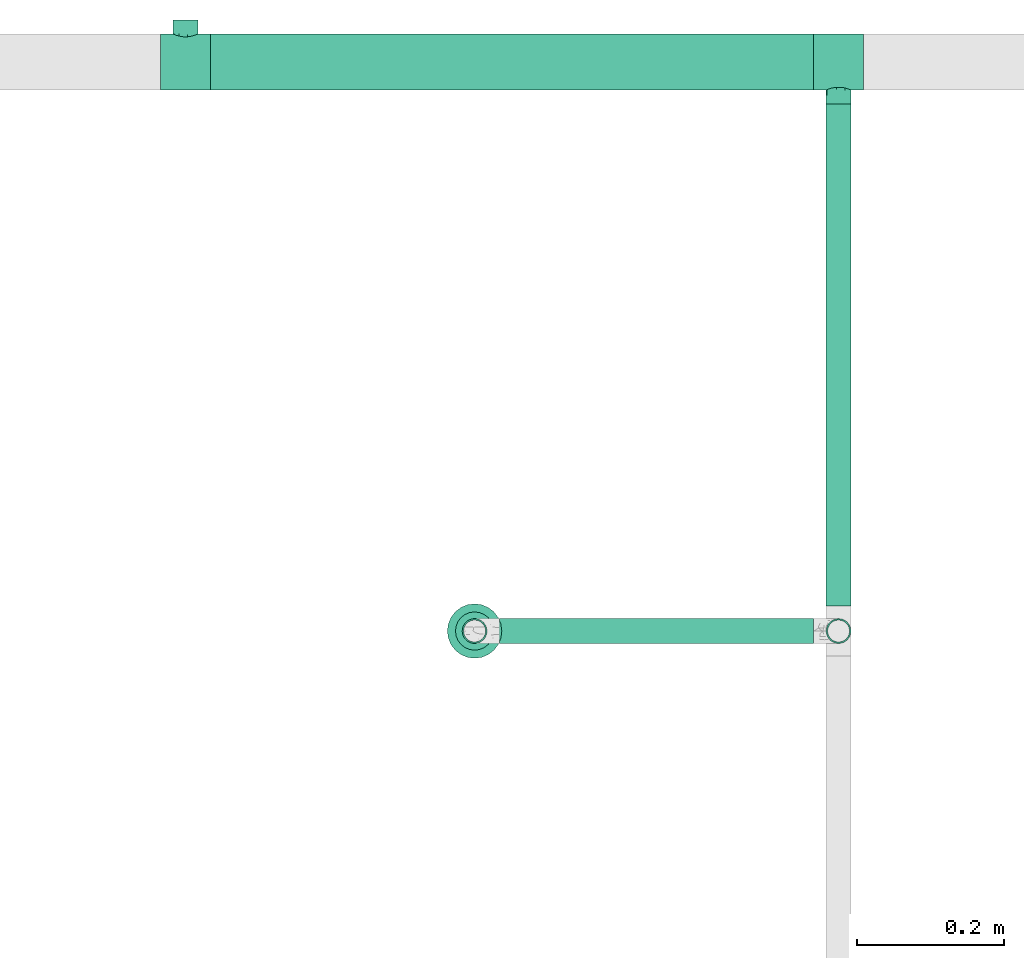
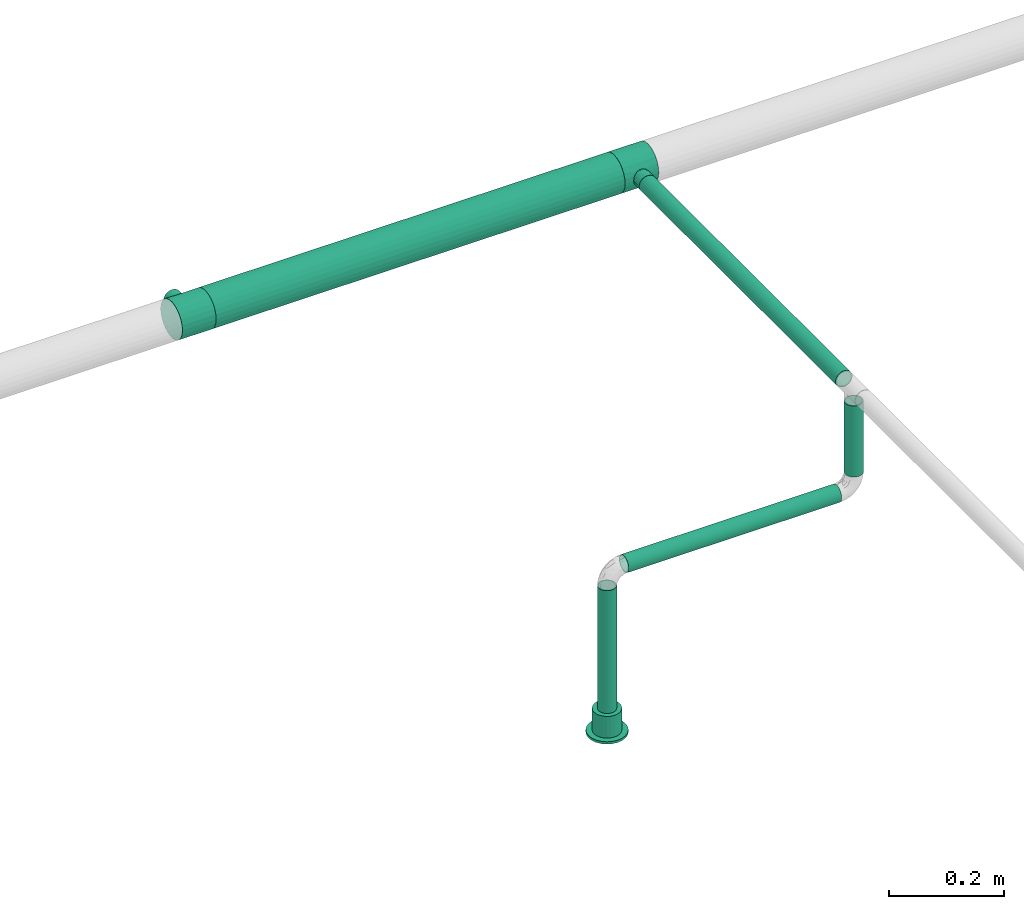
# One storey, part 32 of 95: 5 flow segments, 2 flow fittings, 1 flow terminal.
"""IFC2X3 building model written with IfcOpenShell, lengths in millimetres."""

from ifc_helpers import new_model, entity, si_unit, converted_unit, derived_unit, direction, frame, origin_with_axes, origin_2d_with_axis, place, context, subcontext, project, spatial, hollow_circle, extrude, open_shell, surface_model, source, transform, mapped, type_object, element, save


model = new_model("IFC2X3")

# Units and contexts
model_context = context("Model", 3, precision=0.01, world=frame((0.0, 4.29681676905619e-09, 0.0)), true_north=direction((4.01073788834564e-13, 1.0)))
plan_context = context("Plan", 3, precision=0.01, world=frame((0.0, 4.29681676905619e-09, 0.0)), true_north=direction((4.01073788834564e-13, 1.0)))
body_context = subcontext(model_context, "Body", "Model", "MODEL_VIEW")
ifc_project = project(units=[converted_unit("PLANEANGLEUNIT", "DEGREE", entity("IfcPositiveLengthMeasure", 0.0174532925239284), si_unit("PLANEANGLEUNIT", "RADIAN"), dimensions=[0, 0, 0, 0, 0, 0, 0]), si_unit("AREAUNIT", "SQUARE_METRE"), si_unit("LENGTHUNIT", "METRE", prefix="MILLI"), si_unit("MASSUNIT", "GRAM", prefix="KILO"), si_unit("POWERUNIT", "WATT"), si_unit("PRESSUREUNIT", "PASCAL"), si_unit("FORCEUNIT", "NEWTON", prefix="KILO"), si_unit("ELECTRICVOLTAGEUNIT", "VOLT"), si_unit("ELECTRICCURRENTUNIT", "AMPERE"), si_unit("THERMODYNAMICTEMPERATUREUNIT", "DEGREE_CELSIUS"), si_unit("TIMEUNIT", "SECOND"), si_unit("VOLUMEUNIT", "CUBIC_METRE"), derived_unit("LINEARVELOCITYUNIT", [(si_unit("LENGTHUNIT", "METRE"), 1), (si_unit("TIMEUNIT", "SECOND"), -1)]), derived_unit("VOLUMETRICFLOWRATEUNIT", [(si_unit("VOLUMEUNIT", "CUBIC_METRE"), 1), (si_unit("TIMEUNIT", "SECOND"), -1)]), derived_unit("THERMALTRANSMITTANCEUNIT", [(si_unit("POWERUNIT", "WATT"), 1), (si_unit("THERMODYNAMICTEMPERATUREUNIT", "KELVIN"), -1), (si_unit("AREAUNIT", "SQUARE_METRE"), -1)]), derived_unit("SOUNDPRESSUREUNIT", [(si_unit("PRESSUREUNIT", "PASCAL"), 1)])], contexts=[model_context, plan_context])

# Site, building, storey
site_placement = place(None, frame((0.0, -4.29681676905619e-09, 0.0), z_axis=(0.0, 0.0, 1.0), x_axis=(1.0, 0.0, 0.0)))
site = spatial("IfcSite", under=ifc_project, at=site_placement, CompositionType="ELEMENT")
building_placement = place(site_placement, frame((0.0, 4.29681676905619e-09, 0.0), z_axis=(0.0, 0.0, 1.0), x_axis=(1.0, 0.0, 0.0)))
building = spatial("IfcBuilding", under=site, at=building_placement, Name="mc-building", CompositionType="ELEMENT")
storey_placement = place(building_placement, frame((0.0, 0.0, 210900.0), z_axis=(0.0, 0.0, 1.0), x_axis=(1.0, 0.0, 0.0)))
storey = spatial("IfcBuildingStorey", under=building, at=storey_placement, Name="Nivå F", CompositionType="ELEMENT", Elevation=210900.0)

# Flow fittings
pipe_fitting_type = type_object("IfcPipeFittingType", Name="magi_pipe_fe_tee_centric_90_NOR", PredefinedType="JUNCTION")
shared_shape_1 = source(origin_with_axes(), body_context, "Body", "SurfaceModel", [
    surface_model("IfcShellBasedSurfaceModel", [(-33.8, 9.86101, -36.80177), (-33.8, 0.0, -38.1), (-33.8, 36.80177, -9.86101), (-33.8, 19.05, -32.99557), (-33.8, 32.99557, -19.05), (-33.8, 26.94077, -26.94077), (-33.8, -38.1, 0.0), (-33.8, -19.05, -32.99557), (-33.8, -26.94077, -26.94077), (-33.8, -9.86101, -36.80177), (-33.8, -32.99557, -19.05), (-33.8, -36.80177, -9.86101), (-33.8, 38.1, 0.0), (-33.8, 32.99557, 19.05), (-33.8, 36.80177, 9.86101), (-33.8, -36.80177, 9.86101), (-33.8, 19.05, 32.99557), (-33.8, 26.94077, 26.94077), (-33.8, 9.86101, 36.80177), (-33.8, 0.0, 38.1), (-33.8, -26.94077, 26.94077), (-33.8, -32.99557, 19.05), (-33.8, -9.86101, 36.80177), (-33.8, -19.05, 32.99557), (33.8, 0.0, -38.1), (33.8, 9.86101, -36.80177), (33.8, 19.05, -32.99557), (33.8, 26.94077, -26.94077), (33.8, 32.99557, -19.05), (33.8, 36.80177, -9.86101), (33.8, -38.1, 0.0), (33.8, -9.86101, -36.80177), (33.8, -26.94077, -26.94077), (33.8, -19.05, -32.99557), (33.8, -32.99557, -19.05), (33.8, -36.80177, -9.86101), (33.8, 36.80177, 9.86101), (33.8, 32.99557, 19.05), (33.8, 19.05, 32.99557), (33.8, 0.0, 38.1), (33.8, 26.94077, 26.94077), (33.8, 9.86101, 36.80177), (33.8, -26.94077, 26.94077), (33.8, -32.99557, 19.05), (33.8, -36.80177, 9.86101), (33.8, -19.05, 32.99557), (33.8, -9.86101, 36.80177), (33.8, 38.1, 0.0), (33.8, -37.45089, 4.9305), (15.86072, -37.65053, 5.83504), (16.9, -38.1, 0.0), (12.92726, -36.51183, 10.88559), (2.96752, -34.27545, 16.63742), (33.8, -34.89867, 14.4555), (8.48894, -35.18611, 14.61328), (-8.4904, -35.18646, 14.61243), (-33.8, -34.89867, 14.4555), (-15.8612, -37.65073, 5.83372), (-33.8, -37.45089, 4.9305), (-16.9, -38.1, 0.0), (-12.9317, -36.51341, 10.88031), (-2.97221, -34.27585, 16.63658), (-33.8, -37.45089, -4.9305), (-15.8612, -37.65073, -5.83372), (15.86072, -37.65053, -5.83504), (33.8, -37.45089, -4.9305), (-12.9317, -36.51341, -10.88031), (-33.8, -34.89867, -14.4555), (-8.4904, -35.18646, -14.61243), (2.96752, -34.27545, -16.63742), (8.48894, -35.18611, -14.61328), (33.8, -34.89867, -14.4555), (12.92726, -36.51183, -10.88559), (-2.97221, -34.27585, -16.63658), (4.37404, -57.15, -16.32415), (-16.9, -57.15, 0.0), (0.0, -57.15, -16.9), (14.63583, -57.15, -8.45), (8.45, -57.15, -14.63583), (16.32415, -57.15, -4.37404), (11.9501, -57.15, -11.9501), (-11.9501, -57.15, -11.9501), (-8.45, -57.15, -14.63583), (-4.37404, -57.15, -16.32415), (-14.63583, -57.15, -8.45), (-16.32415, -57.15, -4.37404), (16.9, -57.15, 0.0), (8.45, -57.15, 14.63583), (16.32415, -57.15, 4.37404), (14.63583, -57.15, 8.45), (-8.45, -57.15, 14.63583), (11.9501, -57.15, 11.9501), (4.37404, -57.15, 16.32415), (-16.32415, -57.15, 4.37404), (-11.9501, -57.15, 11.9501), (-14.63583, -57.15, 8.45), (0.0, -57.15, 16.9), (-4.37404, -57.15, 16.32415), (-16.3806, -37.87537, 2.91686), (-5.7313, -34.73116, 15.62451), (-0.00235, -34.27565, 16.637), (5.72823, -34.73078, 15.62535), (16.38036, -37.87526, 2.91752), (16.38036, -37.87526, -2.91752), (5.72823, -34.73078, -15.62535), (-0.00235, -34.27565, -16.637), (-5.7313, -34.73116, -15.62451), (-16.3806, -37.87537, -2.91686)], [open_shell([[[0, 1, 2]], [[3, 0, 2]], [[2, 4, 5]], [[3, 2, 5]], [[6, 2, 1]], [[7, 8, 9]], [[8, 1, 9]], [[10, 11, 8]], [[6, 8, 11]], [[8, 6, 1]], [[6, 12, 2]], [[13, 14, 12]], [[15, 13, 6]], [[16, 13, 15]], [[17, 13, 16]], [[18, 16, 19]], [[20, 19, 21]], [[16, 15, 21]], [[22, 19, 23]], [[20, 23, 19]], [[21, 19, 16]], [[12, 6, 13]], [[24, 25, 26]], [[24, 26, 27]], [[27, 28, 29]], [[24, 27, 30]], [[30, 27, 29]], [[31, 32, 33]], [[31, 24, 32]], [[34, 30, 35]], [[30, 34, 32]], [[24, 30, 32]], [[29, 36, 30]], [[36, 37, 30]], [[30, 37, 38]], [[38, 39, 30]], [[38, 37, 40]], [[39, 38, 41]], [[30, 42, 43]], [[44, 30, 43]], [[45, 39, 46]], [[45, 42, 30]], [[30, 39, 45]], [[36, 29, 47]], [[48, 44, 49]], [[50, 30, 48]], [[44, 51, 49]], [[43, 42, 52]], [[50, 48, 49]], [[44, 53, 51]], [[52, 54, 43]], [[42, 20, 52]], [[54, 53, 43]], [[55, 21, 56]], [[57, 58, 59]], [[6, 59, 58]], [[57, 60, 15]], [[55, 61, 21]], [[51, 53, 54]], [[15, 60, 56]], [[21, 61, 20]], [[56, 60, 55]], [[61, 52, 20]], [[57, 15, 58]], [[42, 23, 20]], [[19, 46, 39]], [[22, 45, 46]], [[18, 39, 41]], [[37, 36, 14]], [[17, 38, 40]], [[13, 40, 37]], [[41, 38, 16]], [[12, 36, 47]], [[23, 45, 22]], [[22, 46, 19]], [[18, 19, 39]], [[41, 16, 18]], [[16, 38, 17]], [[13, 17, 40]], [[14, 13, 37]], [[36, 12, 14]], [[45, 23, 42]], [[12, 47, 29]], [[29, 28, 2]], [[59, 62, 63]], [[27, 4, 28]], [[9, 24, 31]], [[0, 26, 25]], [[64, 35, 65]], [[24, 1, 25]], [[31, 33, 7]], [[27, 26, 5]], [[66, 67, 68]], [[4, 2, 28]], [[12, 29, 2]], [[27, 5, 4]], [[3, 26, 0]], [[26, 3, 5]], [[0, 25, 1]], [[9, 1, 24]], [[31, 7, 9]], [[33, 8, 7]], [[32, 34, 69]], [[70, 34, 71]], [[70, 69, 34]], [[35, 72, 71]], [[32, 69, 8]], [[30, 50, 65]], [[64, 72, 35]], [[64, 65, 50]], [[72, 70, 71]], [[73, 68, 10]], [[10, 8, 73]], [[68, 67, 10]], [[73, 8, 69]], [[66, 63, 11]], [[63, 62, 11]], [[62, 59, 6]], [[11, 67, 66]], [[32, 8, 33]], [[74, 75, 76]], [[77, 74, 78]], [[77, 79, 74]], [[77, 78, 80]], [[75, 74, 79]], [[76, 81, 82]], [[82, 83, 76]], [[84, 75, 85]], [[81, 76, 84]], [[75, 84, 76]], [[79, 86, 75]], [[87, 86, 88]], [[87, 88, 89]], [[90, 75, 87]], [[87, 89, 91]], [[90, 87, 92]], [[93, 94, 95]], [[94, 93, 90]], [[90, 96, 97]], [[93, 75, 90]], [[92, 96, 90]], [[87, 75, 86]], [[93, 98, 75]], [[60, 95, 94]], [[93, 95, 57]], [[94, 90, 55]], [[98, 59, 75]], [[57, 95, 60]], [[97, 61, 99]], [[55, 60, 94]], [[96, 52, 100]], [[87, 101, 92]], [[99, 90, 97]], [[99, 55, 90]], [[93, 57, 98]], [[92, 52, 96]], [[49, 89, 88]], [[102, 86, 50]], [[102, 49, 88]], [[91, 89, 51]], [[96, 61, 97]], [[101, 52, 92]], [[87, 54, 101]], [[87, 91, 54]], [[54, 91, 51]], [[51, 89, 49]], [[86, 102, 88]], [[100, 61, 96]], [[79, 103, 86]], [[72, 77, 80]], [[79, 77, 64]], [[80, 78, 70]], [[103, 50, 86]], [[64, 77, 72]], [[74, 69, 104]], [[70, 72, 80]], [[76, 73, 105]], [[82, 106, 83]], [[107, 75, 59]], [[104, 78, 74]], [[104, 70, 78]], [[68, 82, 81]], [[79, 64, 103]], [[63, 84, 85]], [[107, 63, 85]], [[84, 66, 81]], [[76, 69, 74]], [[83, 106, 73]], [[73, 76, 83]], [[68, 106, 82]], [[68, 81, 66]], [[66, 84, 63]], [[75, 107, 85]], [[105, 69, 76]]])]),
])
for number, where, z_axis, x_axis, name in (
    (1, (526500.0, 461774.3, 4310.0), (0.0, 0.0, 1.0), (-1.0, 0.0, 0.0), "magi_pipe_fe_tee_centric_90_NOR"),
    (2, (527387.9, 461774.3, 4310.0), (0.0, 0.0, -1.0), (-1.0, 0.0, 0.0), "magi_pipe_fe_tee_centric_90_NOR"),
):
    element("IfcFlowFitting", number, at=place(storey_placement, frame(where, z_axis=z_axis, x_axis=x_axis)), inside=storey, type_object=pipe_fitting_type, Name=name, context=body_context, shape_type="MappedRepresentation", body=[
        mapped(shared_shape_1, transform((0.0, 0.0, 0.0), scale=1.0)),
    ])

# Flow segments
pipe_segment_type = type_object("IfcPipeSegmentType", Name="Stålrør normaltykke", PredefinedType="RIGIDSEGMENT")
shared_shape_2 = source(origin_with_axes(), body_context, "Body", "SweptSolid", [
    extrude(hollow_circle(Radius=16.9, WallThickness=2.0, at=origin_2d_with_axis()), frame((0.0, 0.0, 0.0), z_axis=(1.0, 0.0, 0.0), x_axis=(0.0, 1.0, 0.0)), (0.0, 0.0, 1.0), 427.2),
])
flow_segment_1_placement = place(storey_placement, frame((526926.89321, 461000.75899, 4100.0), z_axis=(0.0, 0.0, 1.0), x_axis=(1.0, 0.0, 0.0)))
element("IfcFlowSegment", 3, at=flow_segment_1_placement, inside=storey, type_object=pipe_segment_type, Name="Stålrør normaltykke", context=body_context, shape_type="MappedRepresentation", body=[
    mapped(shared_shape_2, transform((0.0, 0.0, 0.0), scale=1.0)),
])
shared_shape_3 = source(origin_with_axes(), body_context, "Body", "SweptSolid", [
    extrude(hollow_circle(Radius=16.9, WallThickness=2.0, at=origin_2d_with_axis()), frame((0.0, 0.0, 0.0), z_axis=(1.0, 0.0, 0.0), x_axis=(0.0, 1.0, 0.0)), (0.0, 0.0, 1.0), 296.9),
])
flow_segment_2_placement = place(storey_placement, frame((526893.09321, 461000.75899, 4066.20000000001), z_axis=(0.0, -1.0, 0.0), x_axis=(0.0, 0.0, -1.0)))
element("IfcFlowSegment", 4, at=flow_segment_2_placement, inside=storey, type_object=pipe_segment_type, Name="Stålrør normaltykke", context=body_context, shape_type="MappedRepresentation", body=[
    mapped(shared_shape_3, transform((0.0, 0.0, 0.0), scale=1.0)),
])
shared_shape_4 = source(origin_with_axes(), body_context, "Body", "SweptSolid", [
    extrude(hollow_circle(Radius=16.9, WallThickness=2.0, at=origin_2d_with_axis()), frame((0.0, 0.0, 0.0), z_axis=(1.0, 0.0, 0.0), x_axis=(0.0, 1.0, 0.0)), (0.0, 0.0, 1.0), 150.8),
])
flow_segment_3_placement = place(storey_placement, frame((527387.9, 461000.75899, 4284.64999999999), z_axis=(-1.0, 0.0, 0.0), x_axis=(0.0, 0.0, -1.0)))
element("IfcFlowSegment", 5, at=flow_segment_3_placement, inside=storey, type_object=pipe_segment_type, Name="Stålrør normaltykke", context=body_context, shape_type="MappedRepresentation", body=[
    mapped(shared_shape_4, transform((0.0, 0.0, 0.0), scale=1.0)),
])
shared_shape_5 = source(origin_with_axes(), body_context, "Body", "SweptSolid", [
    extrude(hollow_circle(Radius=16.9, WallThickness=2.0, at=origin_2d_with_axis()), frame((0.0, 0.0, 0.0), z_axis=(1.0, 0.0, 0.0), x_axis=(0.0, 1.0, 0.0)), (0.0, 0.0, 1.0), 682.6),
])
flow_segment_4_placement = place(storey_placement, frame((527387.9, 461034.55899, 4310.0), z_axis=(0.0, 0.0, 1.0), x_axis=(0.0, 1.0, 0.0)))
element("IfcFlowSegment", 6, at=flow_segment_4_placement, inside=storey, type_object=pipe_segment_type, Name="Stålrør normaltykke", context=body_context, shape_type="MappedRepresentation", body=[
    mapped(shared_shape_5, transform((0.0, 0.0, 0.0), scale=1.0)),
])
shared_shape_6 = source(origin_with_axes(), body_context, "Body", "SweptSolid", [
    extrude(hollow_circle(Radius=38.0, WallThickness=2.0, at=origin_2d_with_axis()), frame((0.0, 0.0, 0.0), z_axis=(1.0, 0.0, 0.0), x_axis=(0.0, 1.0, 0.0)), (0.0, 0.0, 1.0), 820.3),
])
flow_segment_5_placement = place(storey_placement, frame((526533.8, 461774.3, 4310.0), z_axis=(0.0, 0.0, 1.0), x_axis=(1.0, 0.0, 0.0)))
element("IfcFlowSegment", 7, at=flow_segment_5_placement, inside=storey, type_object=pipe_segment_type, Name="Stålrør normaltykke", context=body_context, shape_type="MappedRepresentation", body=[
    mapped(shared_shape_6, transform((0.0, 0.0, 0.0), scale=1.0)),
])

# Flow terminal
fire_suppression_terminal_type = type_object("IfcFireSuppressionTerminalType", Name="68DGR-STD-SKJULT I HIMLING", PredefinedType="NOTDEFINED")
shared_shape_7 = source(origin_with_axes(), body_context, "Body", "SurfaceModel", [
    surface_model("IfcShellBasedSurfaceModel", [(6.72929, -25.11407, 0.0), (13.0, -22.51666, 0.0), (18.38478, -18.38478, 0.0), (-25.11407, -6.72929, 0.0), (25.11407, -6.72929, 0.0), (26.0, 0.0, 0.0), (22.51666, -13.0, 0.0), (-6.72929, -25.11407, 0.0), (-13.0, -22.51666, 0.0), (0.0, -26.0, 0.0), (-18.38478, -18.38478, 0.0), (-22.51666, -13.0, 0.0), (25.11407, 6.72929, 0.0), (22.51666, 13.0, 0.0), (18.38478, 18.38478, 0.0), (13.0, 22.51666, 0.0), (6.72929, 25.11407, 0.0), (0.0, 26.0, 0.0), (-18.38478, 18.38478, 0.0), (-26.0, 0.0, 0.0), (-22.51666, 13.0, 0.0), (-25.11407, 6.72929, 0.0), (-6.72929, 25.11407, 0.0), (-13.0, 22.51666, 0.0), (0.0, 26.0, -46.0), (6.72929, 25.11407, -46.0), (13.0, 22.51666, -46.0), (-25.11407, -6.72929, -46.0), (18.38478, 18.38478, -46.0), (22.51666, 13.0, -46.0), (25.11407, 6.72929, -46.0), (-18.38478, 18.38478, -46.0), (-6.72929, 25.11407, -46.0), (-13.0, 22.51666, -46.0), (-22.51666, 13.0, -46.0), (-26.0, 0.0, -46.0), (-25.11407, 6.72929, -46.0), (25.11407, -6.72929, -46.0), (18.38478, -18.38478, -46.0), (22.51666, -13.0, -46.0), (13.0, -22.51666, -46.0), (6.72929, -25.11407, -46.0), (-18.38478, -18.38478, -46.0), (-22.51666, -13.0, -46.0), (-13.0, -22.51666, -46.0), (-6.72929, -25.11407, -46.0), (0.0, -26.0, -46.0), (26.0, 0.0, -46.0), (35.73926, -9.57631, 5.0), (9.57631, -35.73926, 5.0), (18.5, -32.04294, 5.0), (32.04294, -18.5, 5.0), (26.16295, -26.16295, 5.0), (-18.5, -32.04294, 5.0), (-26.16295, -26.16295, 5.0), (37.0, 0.0, 5.0), (0.0, -37.0, 5.0), (-9.57631, -35.73926, 5.0), (-35.73926, -9.57631, 5.0), (-32.04294, -18.5, 5.0), (35.73926, 9.57631, 5.0), (0.0, 37.0, 5.0), (32.04294, 18.5, 5.0), (18.5, 32.04294, 5.0), (26.16295, 26.16295, 5.0), (9.57631, 35.73926, 5.0), (-9.57631, 35.73926, 5.0), (-35.73926, 9.57631, 5.0), (-26.16295, 26.16295, 5.0), (-32.04294, 18.5, 5.0), (-37.0, 0.0, 5.0), (-18.5, 32.04294, 5.0), (0.0, 37.0, 0.0), (9.57631, 35.73926, 0.0), (18.5, 32.04294, 0.0), (32.04294, 18.5, 0.0), (-26.16295, 26.16295, 0.0), (26.16295, 26.16295, 0.0), (35.73926, -9.57631, 0.0), (-9.57631, 35.73926, 0.0), (-18.5, 32.04294, 0.0), (-35.73926, 9.57631, 0.0), (-32.04294, 18.5, 0.0), (-26.16295, -26.16295, 0.0), (-37.0, 0.0, 0.0), (35.73926, 9.57631, 0.0), (37.0, 0.0, 0.0), (9.57631, -35.73926, 0.0), (18.5, -32.04294, 0.0), (32.04294, -18.5, 0.0), (26.16295, -26.16295, 0.0), (-18.5, -32.04294, 0.0), (-35.73926, -9.57631, 0.0), (-32.04294, -18.5, 0.0), (0.0, -37.0, 0.0), (-9.57631, -35.73926, 0.0)], [open_shell([[[0, 1, 2]], [[3, 0, 2]], [[4, 5, 2]], [[4, 2, 6]], [[3, 2, 5]], [[7, 3, 8]], [[7, 9, 0]], [[10, 3, 11]], [[3, 10, 8]], [[0, 3, 7]], [[5, 12, 3]], [[12, 13, 14]], [[12, 14, 15]], [[15, 16, 17]], [[17, 3, 15]], [[17, 18, 3]], [[19, 20, 21]], [[19, 3, 20]], [[18, 22, 23]], [[3, 18, 20]], [[17, 22, 18]], [[12, 15, 3]], [[24, 25, 26]], [[27, 24, 26]], [[28, 29, 30]], [[28, 30, 26]], [[27, 31, 24]], [[32, 31, 33]], [[32, 24, 31]], [[34, 35, 36]], [[35, 34, 31]], [[31, 27, 35]], [[27, 26, 30]], [[30, 37, 38]], [[38, 37, 39]], [[38, 40, 41]], [[38, 27, 30]], [[41, 27, 38]], [[27, 42, 43]], [[42, 27, 44]], [[27, 45, 44]], [[27, 41, 45]], [[41, 46, 45]], [[37, 30, 47]], [[3, 27, 43]], [[42, 11, 43]], [[8, 44, 45]], [[42, 44, 10]], [[7, 45, 46]], [[19, 35, 3]], [[35, 27, 3]], [[43, 11, 3]], [[42, 10, 11]], [[8, 10, 44]], [[45, 7, 8]], [[46, 9, 7]], [[0, 41, 40]], [[38, 1, 40]], [[6, 39, 37]], [[38, 39, 2]], [[4, 37, 47]], [[41, 0, 9]], [[40, 1, 0]], [[38, 2, 1]], [[39, 6, 2]], [[4, 6, 37]], [[47, 5, 4]], [[41, 9, 46]], [[30, 12, 47]], [[29, 13, 30]], [[25, 24, 16]], [[28, 14, 29]], [[30, 13, 12]], [[12, 5, 47]], [[15, 26, 16]], [[26, 15, 14]], [[26, 25, 16]], [[14, 13, 29]], [[14, 28, 26]], [[24, 17, 16]], [[22, 32, 33]], [[31, 23, 33]], [[20, 34, 36]], [[31, 34, 18]], [[21, 36, 35]], [[32, 22, 17]], [[33, 23, 22]], [[31, 18, 23]], [[34, 20, 18]], [[21, 20, 36]], [[35, 19, 21]], [[32, 17, 24]], [[48, 49, 50]], [[51, 50, 52]], [[49, 48, 53]], [[48, 50, 51]], [[54, 48, 55]], [[56, 53, 57]], [[56, 49, 53]], [[54, 58, 59]], [[54, 53, 48]], [[58, 54, 55]], [[55, 60, 58]], [[61, 60, 62]], [[63, 62, 64]], [[63, 65, 61]], [[63, 61, 62]], [[60, 61, 66]], [[67, 68, 69]], [[70, 58, 67]], [[68, 66, 71]], [[67, 60, 68]], [[60, 66, 68]], [[67, 58, 60]], [[72, 73, 74]], [[72, 74, 75]], [[72, 75, 76]], [[75, 74, 77]], [[78, 76, 75]], [[79, 76, 80]], [[79, 72, 76]], [[76, 81, 82]], [[76, 78, 81]], [[81, 83, 84]], [[85, 86, 75]], [[81, 78, 87]], [[88, 78, 89]], [[88, 87, 78]], [[88, 89, 90]], [[91, 81, 87]], [[92, 83, 93]], [[84, 83, 92]], [[91, 94, 95]], [[83, 81, 91]], [[94, 91, 87]], [[78, 75, 86]], [[92, 58, 84]], [[93, 59, 92]], [[53, 83, 91]], [[93, 83, 54]], [[57, 91, 95]], [[92, 59, 58]], [[58, 70, 84]], [[57, 53, 91]], [[54, 83, 53]], [[54, 59, 93]], [[56, 57, 95]], [[95, 94, 56]], [[87, 49, 94]], [[88, 50, 87]], [[51, 90, 89]], [[88, 90, 52]], [[48, 89, 78]], [[88, 52, 50]], [[50, 49, 87]], [[55, 48, 78]], [[51, 89, 48]], [[51, 52, 90]], [[86, 55, 78]], [[94, 49, 56]], [[85, 60, 86]], [[75, 62, 85]], [[63, 77, 74]], [[75, 77, 64]], [[65, 74, 73]], [[85, 62, 60]], [[60, 55, 86]], [[65, 63, 74]], [[64, 77, 63]], [[64, 62, 75]], [[61, 65, 73]], [[73, 72, 61]], [[79, 66, 72]], [[80, 71, 79]], [[69, 76, 82]], [[80, 76, 68]], [[67, 82, 81]], [[80, 68, 71]], [[71, 66, 79]], [[70, 67, 81]], [[69, 82, 67]], [[69, 68, 76]], [[84, 70, 81]], [[72, 66, 61]]])]),
])
flow_terminal_placement = place(storey_placement, frame((526893.09321, 461000.75899, 3759.89999999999), z_axis=(0.0, 0.0, -1.0), x_axis=(-1.0, 0.0, 0.0)))
element("IfcFlowTerminal", 8, at=flow_terminal_placement, inside=storey, type_object=fire_suppression_terminal_type, Name="68DGR-STD-SKJULT I HIMLING", context=body_context, shape_type="MappedRepresentation", body=[
    mapped(shared_shape_7, transform((0.0, 0.0, 0.0), scale=1.0)),
])

save(model, "model.ifc")
